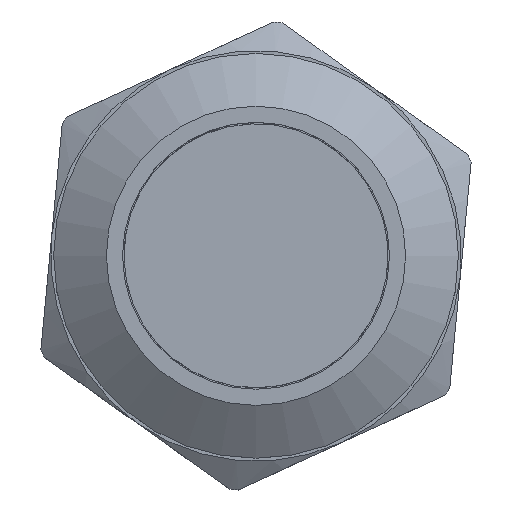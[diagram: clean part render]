
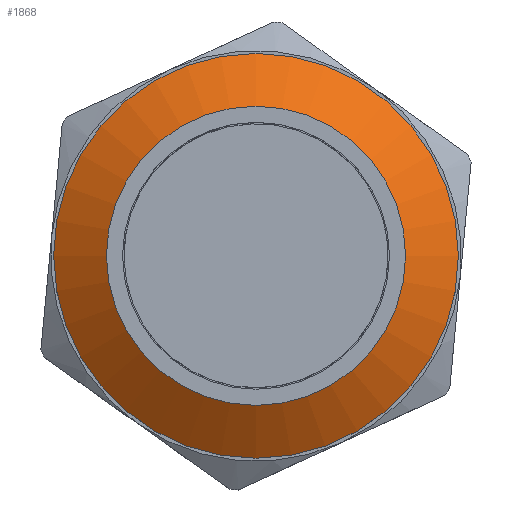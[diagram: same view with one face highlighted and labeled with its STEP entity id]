
A CAD part, top view. The second image highlights one B-rep face of the part: STEP entity #1868.
In plain terms, the highlighted conical face has half-angle 56.31 degrees and reference radius 6.9 mm.
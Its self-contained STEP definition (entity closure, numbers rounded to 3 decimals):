
#1546=CONICAL_SURFACE('',#4312,6.9,56.31);
#1868=ADVANCED_FACE('',(#2220,#2221),#1546,.T.);
#2220=FACE_BOUND('',#2322,.T.);
#2221=FACE_BOUND('',#2323,.T.);
#2322=EDGE_LOOP('',(#2596));
#2323=EDGE_LOOP('',(#2597));
#2596=ORIENTED_EDGE('',*,*,#3762,.F.);
#2597=ORIENTED_EDGE('',*,*,#3761,.F.);
#3459=VERTEX_POINT('',#5723);
#3460=VERTEX_POINT('',#5726);
#3761=EDGE_CURVE('',#3459,#3459,#4205,.T.);
#3762=EDGE_CURVE('',#3460,#3460,#4206,.T.);
#4205=CIRCLE('',#4293,6.9);
#4206=CIRCLE('',#4295,5.1);
#4293=AXIS2_PLACEMENT_3D('',#5722,#4597,#4598);
#4295=AXIS2_PLACEMENT_3D('',#5725,#4601,#4602);
#4312=AXIS2_PLACEMENT_3D('',#6479,#4635,#4636);
#4597=DIRECTION('',(0.,0.,-1.));
#4598=DIRECTION('',(-1.,0.,0.));
#4601=DIRECTION('',(0.,0.,1.));
#4602=DIRECTION('',(-1.,0.,0.));
#4635=DIRECTION('',(0.,0.,-1.));
#4636=DIRECTION('',(-1.,0.,0.));
#5722=CARTESIAN_POINT('',(0.,0.,10.1));
#5723=CARTESIAN_POINT('',(-6.9,0.,10.1));
#5725=CARTESIAN_POINT('',(0.,0.,11.3));
#5726=CARTESIAN_POINT('',(-5.1,0.,11.3));
#6479=CARTESIAN_POINT('',(0.,0.,10.1));
